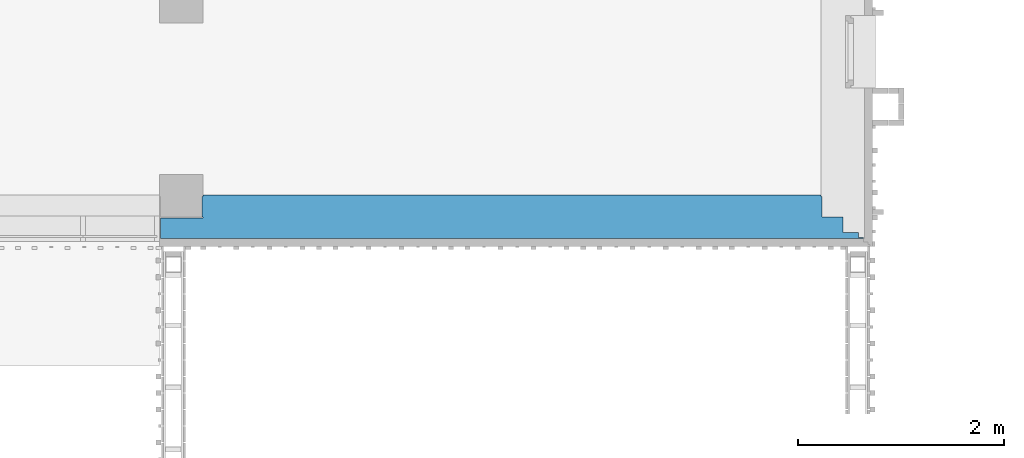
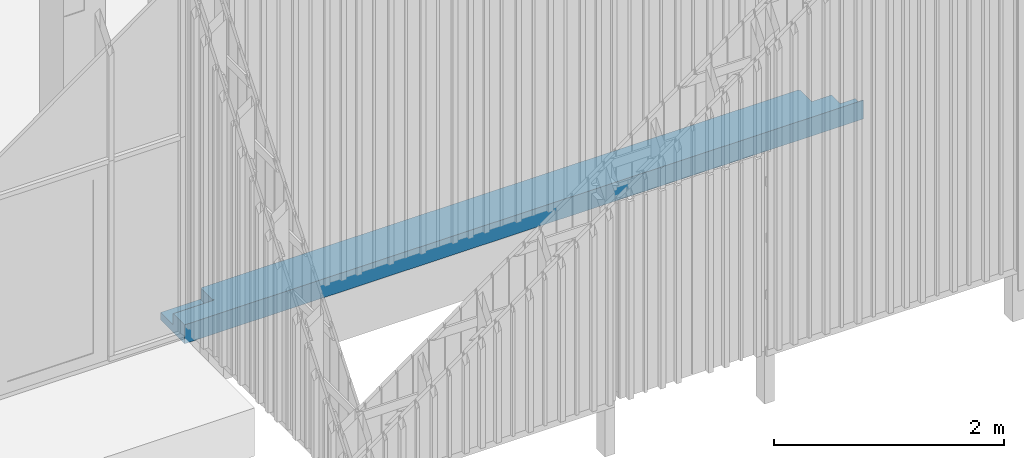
# One storey, part 164 of 390: 1 wall.
"""IFC2X3 building model written with IfcOpenShell, lengths in millimetres."""

from ifc_helpers import new_model, entity, si_unit, converted_unit, derived_unit, money_unit, direction, frame, origin_with_axes, place, context, subcontext, project, spatial, faceted_brep, material, material_list, type_object, element, save


model = new_model("IFC2X3")

# Units and contexts
model_context = context("Model", 3, precision=1e-05, world=origin_with_axes(), true_north=direction((0.0, 1.0)))
body_context = subcontext(model_context, "Body", "Model", "MODEL_VIEW")
ifc_project = project(units=[si_unit("LENGTHUNIT", "METRE", prefix="MILLI"), si_unit("AREAUNIT", "SQUARE_METRE"), si_unit("VOLUMEUNIT", "CUBIC_METRE"), converted_unit("PLANEANGLEUNIT", "DEGREE", entity("IfcPlaneAngleMeasure", 0.0174532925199), si_unit("PLANEANGLEUNIT", "RADIAN"), dimensions=[0, 0, 0, 0, 0, 0, 0]), si_unit("SOLIDANGLEUNIT", "STERADIAN"), money_unit("EUR"), converted_unit("TIMEUNIT", "Year", entity("IfcTimeMeasure", 31556926.0), si_unit("TIMEUNIT", "SECOND"), dimensions=[0, 0, 1, 0, 0, 0, 0]), si_unit("MASSUNIT", "GRAM", prefix="KILO"), si_unit("THERMODYNAMICTEMPERATUREUNIT", "DEGREE_CELSIUS"), si_unit("LUMINOUSINTENSITYUNIT", "LUMEN"), si_unit("ENERGYUNIT", "JOULE", prefix="MEGA"), derived_unit("THERMALCONDUCTANCEUNIT", [(si_unit("POWERUNIT", "WATT"), 1), (si_unit("LENGTHUNIT", "METRE"), -1), (si_unit("THERMODYNAMICTEMPERATUREUNIT", "KELVIN"), -1)]), derived_unit("SPECIFICHEATCAPACITYUNIT", [(si_unit("ENERGYUNIT", "JOULE"), 1), (si_unit("MASSUNIT", "GRAM", prefix="KILO"), -1), (si_unit("THERMODYNAMICTEMPERATUREUNIT", "KELVIN"), -1)]), derived_unit("MASSDENSITYUNIT", [(si_unit("MASSUNIT", "GRAM", prefix="KILO"), 1), (si_unit("VOLUMEUNIT", "CUBIC_METRE"), -1)])], contexts=[model_context])

# Site, building, storey
site_placement = place(None, origin_with_axes())
site = spatial("IfcSite", under=ifc_project, at=site_placement, Name="Site", CompositionType="ELEMENT")
building_placement = place(site_placement, origin_with_axes())
building = spatial("IfcBuilding", under=site, at=building_placement, Name="Building", CompositionType="ELEMENT")
storey_placement = place(building_placement, origin_with_axes())
storey = spatial("IfcBuildingStorey", under=building, at=storey_placement, Name="1 korrus", CompositionType="ELEMENT", Elevation=0.0)

# Wall
ifc_material_1 = material(Name="Krohv - Lubjakivi")
ifc_material_2 = material(Name="Raudbetoon - Konstruktsioon")
ifc_material_3 = material(Name="Soojustus - Plastik Kõva")
ifc_material_4 = material(Name="Plaat - Sein")
ifc_material_list = material_list([ifc_material_1, ifc_material_2, ifc_material_3, ifc_material_3, ifc_material_4])
wall_type = type_object("IfcWallType", Name="VS-05", PredefinedType="NOTDEFINED")
wall_placement = place(storey_placement, frame((132890.0, 45760.0000101, -100.0), z_axis=(0.0, 0.0, 1.0), x_axis=(1.0, 0.0, 0.0)))
element("IfcWall", 1, at=wall_placement, inside=storey, type_object=wall_type, material=ifc_material_list, Name="VS-05", context=body_context, shape_type="Brep", body=[
    faceted_brep([(409.999990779, -3.87672116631e-08, 80.0), (409.999990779, -3.87672116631e-08, 200.0), (6399.99999846, -6.0513372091e-07, 200.0), (6399.99999846, -6.0513372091e-07, 0.0), (0.0, 0.0, 0.0), (-9.22125309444e-06, 0.0, 80.0), (409.999990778, -10.0000000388, 200.0), (409.999990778, -10.0000000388, 80.0), (6399.99999827, -10.0000006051, 200.0), (6399.99999827, -10.0000006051, 0.0), (-9.37916411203e-10, -10.0, 0.0), (-9.22219101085e-06, -10.0, 80.0)], [[[0, 1, 2, 3, 4, 5]], [[6, 1, 0, 7]], [[1, 6, 8, 2]], [[2, 8, 9, 3]], [[3, 9, 10, 4]], [[11, 5, 4, 10]], [[7, 0, 5, 11]], [[7, 11, 10, 9, 8, 6]]]),
    faceted_brep([(-9.22219101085e-06, -10.0, 80.0), (399.999990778, -10.0000000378, 80.0), (399.999990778, -10.0000000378, 200.0), (6409.99999827, -10.0000006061, 200.0), (6409.99999827, -10.0000006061, 0.0), (-9.37916411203e-10, -10.0, 0.0), (-9.24109144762e-06, -209.999999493, 80.0), (399.999990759, -209.999999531, 80.0), (399.999990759, -209.999999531, 200.0), (6409.99999457, -210.000000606, 200.0), (6409.99999457, -210.000000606, 0.0), (-1.98383531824e-08, -210.0, 0.0)], [[[0, 1, 2, 3, 4, 5]], [[1, 0, 6, 7]], [[8, 2, 1, 7]], [[2, 8, 9, 3]], [[3, 9, 10, 4]], [[4, 10, 11, 5]], [[6, 0, 5, 11]], [[7, 6, 11, 10, 9, 8]]]),
    faceted_brep([(399.999990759, -209.999999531, 80.0), (409.999990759, -210.000000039, 80.0), (409.999990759, -210.000000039, 200.0), (6609.99999457, -210.000000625, 200.0), (6609.99999457, -210.000000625, 0.0), (-1.98383531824e-08, -210.0, 0.0), (-9.24109144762e-06, -209.999999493, 80.0), (-2.07762695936e-08, -219.999999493, 80.0), (409.999990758, -219.999999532, 80.0), (409.999990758, -219.999999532, 200.0), (-2.07762695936e-08, -219.999999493, 200.0), (-3.40207861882e-08, -360.0, 200.0), (6609.99999179, -360.000000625, 200.0), (6609.99999179, -360.000000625, 0.0), (-3.40207861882e-08, -360.0, 0.0)], [[[0, 1, 2, 3, 4, 5, 6]], [[1, 0, 6, 7, 8]], [[9, 2, 1, 8]], [[9, 10, 11, 12, 3, 2]], [[3, 12, 13, 4]], [[4, 13, 14, 5]], [[7, 6, 5, 14, 11, 10]], [[10, 9, 8, 7]], [[13, 12, 11, 14]]]),
    faceted_brep([(6759.99999179, -360.000000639, 200.0), (-3.40207861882e-08, -360.0, 200.0), (-3.87672116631e-08, -410.0, 200.0), (6759.99999086, -410.000000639, 200.0), (6759.99999179, -360.000000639, 0.0), (-3.40207861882e-08, -360.0, 0.0), (-3.87672116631e-08, -410.0, 0.0), (6759.99999086, -410.000000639, 0.0)], [[[0, 1, 2, 3]], [[4, 5, 1, 0]], [[2, 1, 5, 6]], [[3, 2, 6, 7]], [[3, 7, 4, 0]], [[7, 6, 5, 4]]]),
    faceted_brep([(6809.99999086, -410.000000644, 200.0), (-3.87672116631e-08, -410.0, 200.0), (-3.95061761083e-08, -418.0, 200.0), (6809.99999072, -418.000000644, 200.0), (6809.99999086, -410.000000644, 0.0), (-3.87672116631e-08, -410.0, 0.0), (-3.95061761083e-08, -418.0, 0.0), (6809.99999072, -418.000000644, 0.0)], [[[0, 1, 2, 3]], [[4, 5, 1, 0]], [[2, 1, 5, 6]], [[3, 2, 6, 7]], [[3, 7, 4, 0]], [[7, 6, 5, 4]]]),
])

save(model, "model.ifc")
